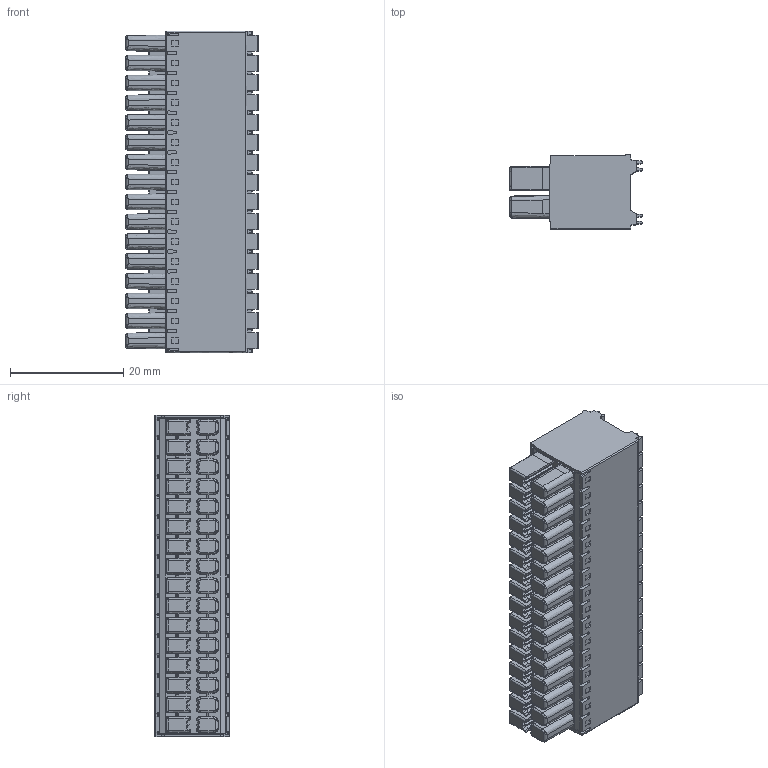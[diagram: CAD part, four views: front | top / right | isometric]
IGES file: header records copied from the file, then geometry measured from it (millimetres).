
Start section: ------------------------------------------------------------------------
Bounding box: 23.35 x 13.25 x 56.8 mm (x, y, z)
Volume: 11679.6 mm3; surface area: 9903.5 mm2
Topology: 1 solids, 1 shells, 2739 faces, 7232 edges, 4559 vertices
Faces by surface type: bspline 2739
